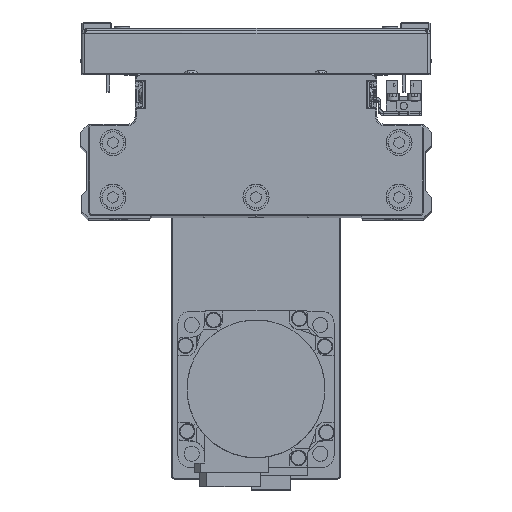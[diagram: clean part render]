
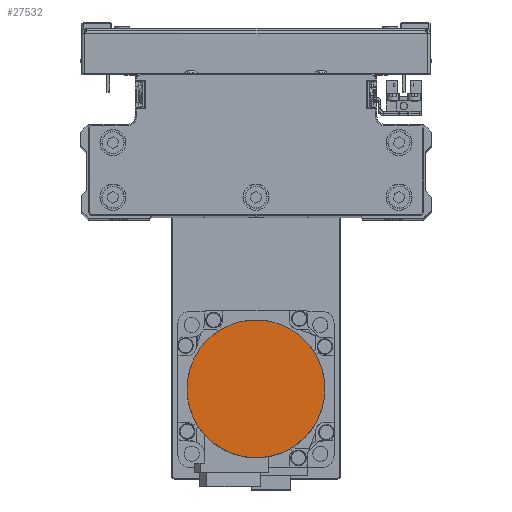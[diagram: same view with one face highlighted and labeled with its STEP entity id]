
A CAD part, top view. The second image highlights one B-rep face of the part: STEP entity #27532.
In plain terms, the highlighted planar face has unit normal (0, 0, 1) as drawn and (0, 0, -1) by its records, which use the part's own axes.
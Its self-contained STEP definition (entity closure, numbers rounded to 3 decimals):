
#119 = CARTESIAN_POINT ( 'NONE',  ( 0., 0., -109.7 ) ) ;
#123 = CARTESIAN_POINT ( 'NONE',  ( -25.147, -8.539, -109.7 ) ) ;
#339 = CARTESIAN_POINT ( 'NONE',  ( 1.734, -26.5, -109.7 ) ) ;
#549 = CARTESIAN_POINT ( 'NONE',  ( 25.652, -6.871, -109.7 ) ) ;
#1502 = CARTESIAN_POINT ( 'NONE',  ( 22.998, 13.28, -109.7 ) ) ;
#1710 = CARTESIAN_POINT ( 'NONE',  ( -6.871, 25.652, -109.7 ) ) ;
#1927 = CARTESIAN_POINT ( 'NONE',  ( -26.5, 1.734, -109.7 ) ) ;
#2241 = EDGE_CURVE ( 'NONE', #31948, #11996, #11064, .T. ) ;
#3423 = CARTESIAN_POINT ( 'NONE',  ( -26.5, -1.734, -109.7 ) ) ;
#3593 = EDGE_LOOP ( 'NONE', ( #6307, #9459 ) ) ;
#3641 = CARTESIAN_POINT ( 'NONE',  ( -6.871, -25.652, -109.7 ) ) ;
#3857 = CARTESIAN_POINT ( 'NONE',  ( 22.998, -13.28, -109.7 ) ) ;
#4810 = CARTESIAN_POINT ( 'NONE',  ( 25.652, 6.871, -109.7 ) ) ;
#5025 = CARTESIAN_POINT ( 'NONE',  ( 1.734, 26.5, -109.7 ) ) ;
#5238 = CARTESIAN_POINT ( 'NONE',  ( -25.147, 8.539, -109.7 ) ) ;
#6307 = ORIENTED_EDGE ( 'NONE', *, *, #2241, .F. ) ;
#6944 = CARTESIAN_POINT ( 'NONE',  ( -13.28, -22.998, -109.7 ) ) ;
#7159 = CARTESIAN_POINT ( 'NONE',  ( 17.512, -19.965, -109.7 ) ) ;
#8108 = CARTESIAN_POINT ( 'NONE',  ( 26.5, 0., -109.7 ) ) ;
#8315 = CARTESIAN_POINT ( 'NONE',  ( 8.539, 25.147, -109.7 ) ) ;
#8523 = CARTESIAN_POINT ( 'NONE',  ( -21.07, 16.165, -109.7 ) ) ;
#9459 = ORIENTED_EDGE ( 'NONE', *, *, #13462, .F. ) ;
#10218 = CARTESIAN_POINT ( 'NONE',  ( -19.965, -17.512, -109.7 ) ) ;
#10438 = CARTESIAN_POINT ( 'NONE',  ( 11.744, -23.819, -109.7 ) ) ;
#11064 = B_SPLINE_CURVE_WITH_KNOTS ( 'NONE', 3,
 ( #8108, #21487, #34860, #4810, #18187, #31562, #1502, #14896, #28278, #41663, #11605, #24991, #38367, #8315, #21693, #35066, #5025, #18404, #31767, #1710, #15108, #28484, #41868, #11811, #25196, #38576, #8523, #21909, #35287, #5238, #18618, #31979, #1927, #15317 ),
 .UNSPECIFIED., .F., .F.,
 ( 4, 2, 2, 2, 2, 2, 2, 2, 2, 2, 2, 2, 2, 2, 2, 2, 4 ),
 ( 0., 0.062, 0.125, 0.187, 0.25, 0.312, 0.375, 0.437, 0.5, 0.562, 0.625, 0.687, 0.75, 0.813, 0.875, 0.938, 1. ),
 .UNSPECIFIED. ) ;
#11605 = CARTESIAN_POINT ( 'NONE',  ( 16.165, 21.07, -109.7 ) ) ;
#11811 = CARTESIAN_POINT ( 'NONE',  ( -16.165, 21.07, -109.7 ) ) ;
#11996 = VERTEX_POINT ( 'NONE', #28709 ) ;
#13462 = EDGE_CURVE ( 'NONE', #11996, #31948, #40877, .T. ) ;
#13519 = DIRECTION ( 'NONE',  ( 0., 0., 1. ) ) ;
#13524 = CARTESIAN_POINT ( 'NONE',  ( -23.819, -11.744, -109.7 ) ) ;
#13737 = CARTESIAN_POINT ( 'NONE',  ( 3.469, -26.329, -109.7 ) ) ;
#13949 = CARTESIAN_POINT ( 'NONE',  ( 26.329, -3.469, -109.7 ) ) ;
#14896 = CARTESIAN_POINT ( 'NONE',  ( 21.07, 16.165, -109.7 ) ) ;
#15108 = CARTESIAN_POINT ( 'NONE',  ( -8.539, 25.147, -109.7 ) ) ;
#15317 = CARTESIAN_POINT ( 'NONE',  ( -26.5, 0., -109.7 ) ) ;
#16810 = FACE_OUTER_BOUND ( 'NONE', #3593, .T. ) ;
#16814 = CARTESIAN_POINT ( 'NONE',  ( -26.329, -3.469, -109.7 ) ) ;
#17030 = CARTESIAN_POINT ( 'NONE',  ( -3.469, -26.329, -109.7 ) ) ;
#17245 = CARTESIAN_POINT ( 'NONE',  ( 23.819, -11.744, -109.7 ) ) ;
#18187 = CARTESIAN_POINT ( 'NONE',  ( 25.147, 8.539, -109.7 ) ) ;
#18404 = CARTESIAN_POINT ( 'NONE',  ( -1.734, 26.5, -109.7 ) ) ;
#18618 = CARTESIAN_POINT ( 'NONE',  ( -25.652, 6.871, -109.7 ) ) ;
#18782 = AXIS2_PLACEMENT_3D ( 'NONE', #119, #13519, #26899 ) ;
#20320 = CARTESIAN_POINT ( 'NONE',  ( -11.744, -23.819, -109.7 ) ) ;
#20539 = CARTESIAN_POINT ( 'NONE',  ( 19.965, -17.512, -109.7 ) ) ;
#21487 = CARTESIAN_POINT ( 'NONE',  ( 26.5, 1.734, -109.7 ) ) ;
#21693 = CARTESIAN_POINT ( 'NONE',  ( 6.871, 25.652, -109.7 ) ) ;
#21909 = CARTESIAN_POINT ( 'NONE',  ( -22.998, 13.28, -109.7 ) ) ;
#23612 = CARTESIAN_POINT ( 'NONE',  ( -17.512, -19.965, -109.7 ) ) ;
#23823 = CARTESIAN_POINT ( 'NONE',  ( 13.28, -22.998, -109.7 ) ) ;
#24991 = CARTESIAN_POINT ( 'NONE',  ( 13.28, 22.998, -109.7 ) ) ;
#25196 = CARTESIAN_POINT ( 'NONE',  ( -17.512, 19.965, -109.7 ) ) ;
#26899 = DIRECTION ( 'NONE',  ( 1., 0., 0. ) ) ;
#26903 = CARTESIAN_POINT ( 'NONE',  ( -22.998, -13.28, -109.7 ) ) ;
#27117 = CARTESIAN_POINT ( 'NONE',  ( 6.871, -25.652, -109.7 ) ) ;
#27331 = CARTESIAN_POINT ( 'NONE',  ( 26.5, -1.734, -109.7 ) ) ;
#27532 = ADVANCED_FACE ( 'NONE', ( #16810 ), #30177, .F. ) ;
#28278 = CARTESIAN_POINT ( 'NONE',  ( 19.965, 17.512, -109.7 ) ) ;
#28484 = CARTESIAN_POINT ( 'NONE',  ( -11.744, 23.819, -109.7 ) ) ;
#28709 = CARTESIAN_POINT ( 'NONE',  ( -26.5, 0., -109.7 ) ) ;
#30177 = PLANE ( 'NONE',  #18782 ) ;
#30183 = CARTESIAN_POINT ( 'NONE',  ( -25.652, -6.871, -109.7 ) ) ;
#30401 = CARTESIAN_POINT ( 'NONE',  ( -1.734, -26.5, -109.7 ) ) ;
#30615 = CARTESIAN_POINT ( 'NONE',  ( 25.147, -8.539, -109.7 ) ) ;
#31562 = CARTESIAN_POINT ( 'NONE',  ( 23.819, 11.744, -109.7 ) ) ;
#31767 = CARTESIAN_POINT ( 'NONE',  ( -3.469, 26.329, -109.7 ) ) ;
#31948 = VERTEX_POINT ( 'NONE', #34508 ) ;
#31979 = CARTESIAN_POINT ( 'NONE',  ( -26.329, 3.469, -109.7 ) ) ;
#33476 = CARTESIAN_POINT ( 'NONE',  ( -26.5, 0., -109.7 ) ) ;
#33690 = CARTESIAN_POINT ( 'NONE',  ( -8.539, -25.147, -109.7 ) ) ;
#33910 = CARTESIAN_POINT ( 'NONE',  ( 21.07, -16.165, -109.7 ) ) ;
#34508 = CARTESIAN_POINT ( 'NONE',  ( 26.5, 0., -109.7 ) ) ;
#34860 = CARTESIAN_POINT ( 'NONE',  ( 26.329, 3.469, -109.7 ) ) ;
#35066 = CARTESIAN_POINT ( 'NONE',  ( 3.469, 26.329, -109.7 ) ) ;
#35287 = CARTESIAN_POINT ( 'NONE',  ( -23.819, 11.744, -109.7 ) ) ;
#36988 = CARTESIAN_POINT ( 'NONE',  ( -16.165, -21.07, -109.7 ) ) ;
#37198 = CARTESIAN_POINT ( 'NONE',  ( 16.165, -21.07, -109.7 ) ) ;
#38367 = CARTESIAN_POINT ( 'NONE',  ( 11.744, 23.819, -109.7 ) ) ;
#38576 = CARTESIAN_POINT ( 'NONE',  ( -19.965, 17.512, -109.7 ) ) ;
#40283 = CARTESIAN_POINT ( 'NONE',  ( -21.07, -16.165, -109.7 ) ) ;
#40496 = CARTESIAN_POINT ( 'NONE',  ( 8.539, -25.147, -109.7 ) ) ;
#40712 = CARTESIAN_POINT ( 'NONE',  ( 26.5, 0., -109.7 ) ) ;
#40877 = B_SPLINE_CURVE_WITH_KNOTS ( 'NONE', 3,
 ( #33476, #3423, #16814, #30183, #123, #13524, #26903, #40283, #10218, #23612, #36988, #6944, #20320, #33690, #3641, #17030, #30401, #339, #13737, #27117, #40496, #10438, #23823, #37198, #7159, #20539, #33910, #3857, #17245, #30615, #549, #13949, #27331, #40712 ),
 .UNSPECIFIED., .F., .F.,
 ( 4, 2, 2, 2, 2, 2, 2, 2, 2, 2, 2, 2, 2, 2, 2, 2, 4 ),
 ( 0., 0.063, 0.125, 0.188, 0.25, 0.312, 0.375, 0.437, 0.5, 0.562, 0.625, 0.687, 0.75, 0.813, 0.875, 0.938, 1. ),
 .UNSPECIFIED. ) ;
#41663 = CARTESIAN_POINT ( 'NONE',  ( 17.512, 19.965, -109.7 ) ) ;
#41868 = CARTESIAN_POINT ( 'NONE',  ( -13.28, 22.998, -109.7 ) ) ;
